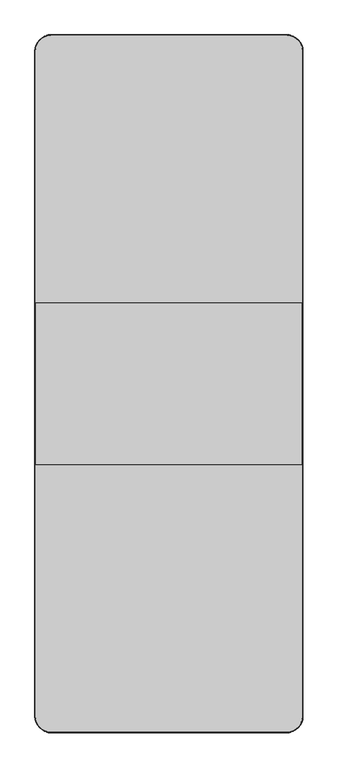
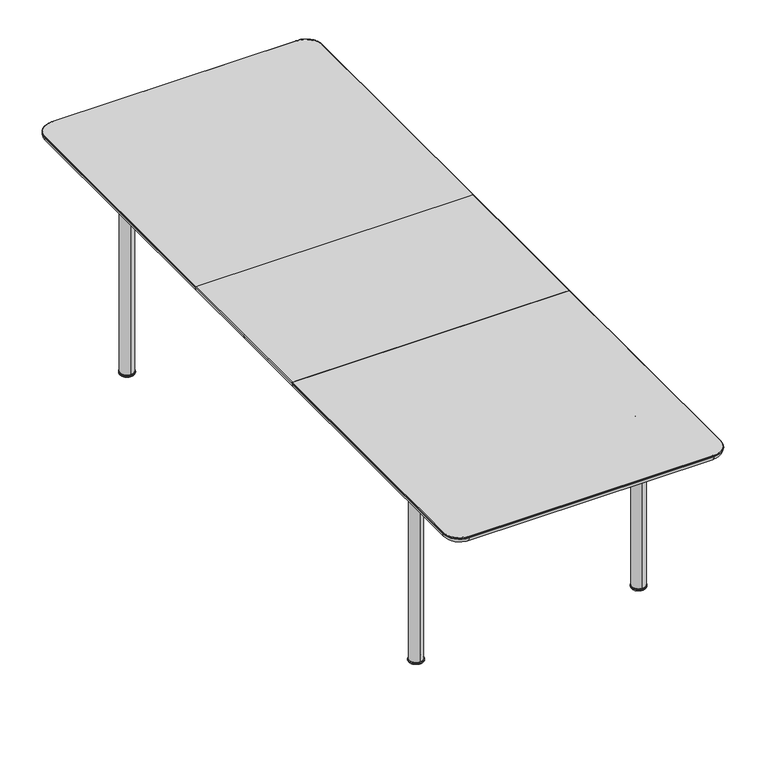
"""IFC4 building model written with IfcOpenShell, lengths in millimetres: furniture geometry, Fredericia - Plan Table Extendable - 6632 : Fredericia - Plan Table Extendable - 6632."""

from ifc_helpers import new_model, si_unit, point, frame, frame_2d, origin, place, context, project, spatial, polyline, circle_curve, ellipse_curve, trimmed, segment, composite_curve, outline, extrude, source, transform, mapped, element, save
from ifc_brep_helpers import plane_surface, cylinder_surface, revolved_surface, advanced_brep


def furniture_cfee76de(model_context):
    return source(origin(), model_context, "Body", "SolidModel", [
        advanced_brep(
        [(500.0, 0.0, 723.0064935), (498.0, 0.0, 725.0064935), (498.0, -300.0, 725.0064935), (500.0, -300.0, 723.0064935), (492.0, 0.0, 705.0064935), (500.0, 0.0, 721.0064935), (500.0, -300.0, 721.0064935), (492.0, -300.0, 705.0064935), (500.0, 300.0, 723.0064935), (498.0, 300.0, 725.0064935), (492.0, 300.0, 705.0064935), (500.0, 300.0, 721.0064935), (-500.0, 0.0, 723.0064935), (-498.0, 0.0, 725.0064935), (-498.0, 300.0, 725.0064935), (-500.0, 300.0, 723.0064935), (-492.0, 0.0, 705.0064935), (-500.0, 0.0, 721.0064935), (-500.0, 300.0, 721.0064935), (-492.0, 300.0, 705.0064935), (-500.0, -300.0, 723.0064935), (-498.0, -300.0, 725.0064935), (-492.0, -300.0, 705.0064935), (-500.0, -300.0, 721.0064935), (482.510771, -300.0, 725.0064935), (482.510771, 300.0, 725.0064935), (-482.510771, 300.0, 725.0064935), (-482.510771, -300.0, 725.0064935), (483.6332472, 300.0, 705.0064935), (483.6332472, -300.0, 705.0064935), (-483.6332472, -300.0, 705.0064935), (-483.6332472, 300.0, 705.0064935)],
        [
            (0, 1, circle_curve(frame((498.0, 0.0, 723.0064935), z_axis=(0.0, -1.0, 0.0), x_axis=(-1.0, 0.0, 0.0)), 2.0)),
            (1, 2),
            (2, 3, circle_curve(frame((498.0, -300.0, 723.0064935), z_axis=(0.0, 1.0, 0.0), x_axis=(-1.0, 0.0, 0.0)), 2.0)),
            (3, 0),
            (4, 5, circle_curve(frame((480.0, 0.0, 721.0064935), z_axis=(0.0, -1.0, 0.0), x_axis=(-1.0, 0.0, 0.0)), 20.0)),
            (5, 6),
            (6, 7, circle_curve(frame((480.0, -300.0, 721.0064935), z_axis=(0.0, 1.0, 0.0), x_axis=(-1.0, 0.0, 0.0)), 20.0)),
            (7, 4),
            (0, 8),
            (8, 9, circle_curve(frame((498.0, 300.0, 723.0064935), z_axis=(0.0, -1.0, 0.0), x_axis=(-1.0, 0.0, 0.0)), 2.0)),
            (9, 1),
            (4, 10),
            (10, 11, circle_curve(frame((480.0, 300.0, 721.0064935), z_axis=(0.0, -1.0, 0.0), x_axis=(-1.0, 0.0, 0.0)), 20.0)),
            (11, 5),
            (12, 13, circle_curve(frame((-498.0, 0.0, 723.0064935), z_axis=(0.0, 1.0, 0.0), x_axis=(1.0, 0.0, 0.0)), 2.0)),
            (13, 14),
            (14, 15, circle_curve(frame((-498.0, 300.0, 723.0064935), z_axis=(0.0, -1.0, 0.0), x_axis=(1.0, 0.0, 0.0)), 2.0)),
            (15, 12),
            (16, 17, circle_curve(frame((-480.0, 0.0, 721.0064935), z_axis=(0.0, 1.0, 0.0), x_axis=(1.0, 0.0, 0.0)), 20.0)),
            (17, 18),
            (18, 19, circle_curve(frame((-480.0, 300.0, 721.0064935), z_axis=(0.0, -1.0, 0.0), x_axis=(1.0, 0.0, 0.0)), 20.0)),
            (19, 16),
            (12, 20),
            (20, 21, circle_curve(frame((-498.0, -300.0, 723.0064935), z_axis=(0.0, 1.0, 0.0), x_axis=(1.0, 0.0, 0.0)), 2.0)),
            (21, 13),
            (16, 22),
            (22, 23, circle_curve(frame((-480.0, -300.0, 721.0064935), z_axis=(0.0, 1.0, 0.0), x_axis=(1.0, 0.0, 0.0)), 20.0)),
            (23, 17),
            (24, 2),
            (9, 25),
            (25, 26),
            (26, 14),
            (21, 27),
            (27, 24),
            (28, 10),
            (7, 29),
            (29, 30),
            (30, 22),
            (19, 31),
            (31, 28),
            (20, 23),
            (6, 3),
            (11, 8),
            (18, 15),
        ],
        [
            cylinder_surface(frame((498.0, -1240.0, 723.0064935), z_axis=(0.0, 1.0, 0.0), x_axis=(-1.0, 0.0, 0.0)), 2.0),
            cylinder_surface(frame((480.0, -1240.0, 721.0064935), z_axis=(0.0, 1.0, 0.0), x_axis=(-1.0, 0.0, 0.0)), 20.0),
            cylinder_surface(frame((498.0, 0.0, 723.0064935), z_axis=(0.0, 1.0, 0.0), x_axis=(-1.0, 0.0, 0.0)), 2.0),
            cylinder_surface(frame((480.0, 0.0, 721.0064935), z_axis=(0.0, 1.0, 0.0), x_axis=(-1.0, 0.0, 0.0)), 20.0),
            cylinder_surface(frame((-498.0, 1240.0, 723.0064935), z_axis=(0.0, -1.0, 0.0), x_axis=(1.0, 0.0, 0.0)), 2.0),
            cylinder_surface(frame((-480.0, 1240.0, 721.0064935), z_axis=(0.0, -1.0, 0.0), x_axis=(1.0, 0.0, 0.0)), 20.0),
            cylinder_surface(frame((-498.0, 0.0, 723.0064935), z_axis=(0.0, -1.0, 0.0), x_axis=(1.0, 0.0, 0.0)), 2.0),
            cylinder_surface(frame((-480.0, 0.0, 721.0064935), z_axis=(0.0, -1.0, 0.0), x_axis=(1.0, 0.0, 0.0)), 20.0),
            plane_surface(frame((500.0, -300.0, 725.0064935), z_axis=(0.0, 0.0, 1.0), x_axis=(1.0, 0.0, 0.0))),
            plane_surface(frame((500.0, -300.0, 705.0064935), z_axis=(0.0, 0.0, -1.0), x_axis=(-1.0, 0.0, 0.0))),
            plane_surface(frame((-500.0, -300.0, 725.0064935), z_axis=(0.0, -1.0, 0.0), x_axis=(0.0, 0.0, -1.0))),
            plane_surface(frame((500.0, -300.0, 725.0064935), z_axis=(1.0, 0.0, 0.0), x_axis=(0.0, 0.0, -1.0))),
            plane_surface(frame((500.0, 300.0, 725.0064935), z_axis=(0.0, 1.0, 0.0), x_axis=(0.0, 0.0, -1.0))),
            plane_surface(frame((-500.0, 300.0, 725.0064935), z_axis=(-1.0, 0.0, 0.0), x_axis=(0.0, 0.0, -1.0))),
        ],
        [
            (0, [[1, 2, 3, 4]]),
            (1, [[5, 6, 7, 8]]),
            (2, [[-1, 9, 10, 11]]),
            (3, [[-5, 12, 13, 14]]),
            (4, [[15, 16, 17, 18]]),
            (5, [[19, 20, 21, 22]]),
            (6, [[-15, 23, 24, 25]]),
            (7, [[-19, 26, 27, 28]]),
            (8, [[29, -2, -11, 30, 31, 32, -16, -25, 33, 34]]),
            (9, [[35, -12, -8, 36, 37, 38, -26, -22, 39, 40]]),
            (10, [[-29, -34, -33, -24, 41, -27, -38, -37, -36, -7, 42, -3]]),
            (11, [[-42, -6, -14, 43, -9, -4]]),
            (12, [[-30, -10, -43, -13, -35, -40, -39, -21, 44, -17, -32, -31]]),
            (13, [[-41, -23, -18, -44, -20, -28]]),
        ],
    ),
        advanced_brep(
        [(482.510771, 300.0, 725.0064935), (498.0, 300.0, 725.0064935), (498.0, 1240.0, 725.0064935), (440.0, 1298.0, 725.0064935), (-440.0, 1298.0, 725.0064935), (-498.0, 1240.0, 725.0064935), (-498.0, 300.0, 725.0064935), (-482.510771, 300.0, 725.0064935), (492.0, 300.0, 705.0064935), (483.6332472, 300.0, 705.0064935), (-483.6332472, 300.0, 705.0064935), (-492.0, 300.0, 705.0064935), (-492.0, 1240.0, 705.0064935), (-440.0, 1292.0, 705.0064935), (440.0, 1292.0, 705.0064935), (492.0, 1240.0, 705.0064935), (500.0, 1240.0, 723.0064935), (500.0, 1240.0, 721.0064935), (440.0, 1300.0, 721.0064935), (440.0, 1300.0, 723.0064945), (500.0, 300.0, 723.0064935), (500.0, 300.0, 721.0064935), (-500.0, 300.0, 723.0064935), (-500.0, 300.0, 721.0064935), (-500.0, 1240.0, 723.0064935), (-500.0, 1240.0, 721.0064935), (-440.0, 1300.0, 723.0064935), (-440.0, 1300.0, 721.0064935)],
        [
            (0, 1),
            (1, 2),
            (2, 3, circle_curve(frame((440.0, 1240.0, 725.0064935), z_axis=(0.0, 0.0, 1.0), x_axis=(1.0, 0.0, 0.0)), 58.0)),
            (3, 4),
            (4, 5, circle_curve(frame((-440.0, 1240.0, 725.0064935), z_axis=(0.0, 0.0, 1.0), x_axis=(0.0, 1.0, 0.0)), 58.0)),
            (5, 6),
            (6, 7),
            (7, 0),
            (8, 9),
            (9, 10),
            (10, 11),
            (11, 12),
            (12, 13, circle_curve(frame((-440.0, 1240.0, 705.0064935), z_axis=(0.0, 0.0, -1.0), x_axis=(0.0, 1.0, 0.0)), 52.0)),
            (13, 14),
            (14, 15, circle_curve(frame((440.0, 1240.0, 705.0064935), z_axis=(0.0, 0.0, -1.0), x_axis=(1.0, 0.0, 0.0)), 52.0)),
            (15, 8),
            (16, 17),
            (17, 18, circle_curve(frame((440.0, 1240.0, 721.0064935), z_axis=(0.0, 0.0, 1.0), x_axis=(0.0, -1.0, 0.0)), 60.0)),
            (18, 19),
            (19, 16, circle_curve(frame((440.0, 1240.0, 723.0064935), z_axis=(0.0, 0.0, -1.0), x_axis=(0.0, -1.0, 0.0)), 60.0)),
            (16, 20),
            (20, 21),
            (21, 17),
            (6, 22, circle_curve(frame((-498.0, 300.0, 723.0064935), z_axis=(0.0, -1.0, 0.0), x_axis=(1.0, 0.0, 0.0)), 2.0)),
            (22, 23),
            (23, 11, circle_curve(frame((-480.0, 300.0, 721.0064935), z_axis=(0.0, -1.0, 0.0), x_axis=(1.0, 0.0, 0.0)), 20.0)),
            (8, 21, circle_curve(frame((480.0, 300.0, 721.0064935), z_axis=(0.0, -1.0, 0.0), x_axis=(-1.0, 0.0, 0.0)), 20.0)),
            (20, 1, circle_curve(frame((498.0, 300.0, 723.0064935), z_axis=(0.0, -1.0, 0.0), x_axis=(-1.0, 0.0, 0.0)), 2.0)),
            (22, 24),
            (24, 25),
            (25, 23),
            (24, 26, circle_curve(frame((-440.0, 1240.0, 723.0064935), z_axis=(0.0, 0.0, -1.0), x_axis=(0.0, -1.0, 0.0)), 60.0)),
            (26, 27),
            (27, 25, circle_curve(frame((-440.0, 1240.0, 721.0064935), z_axis=(0.0, 0.0, 1.0), x_axis=(0.0, -1.0, 0.0)), 60.0)),
            (26, 19),
            (18, 27),
            (16, 2, circle_curve(frame((498.0, 1240.0, 723.0064935), z_axis=(0.0, -1.0, 0.0), x_axis=(-1.0, 0.0, 0.0)), 2.0)),
            (15, 17, circle_curve(frame((480.0, 1240.0, 721.0064935), z_axis=(0.0, -1.0, 0.0), x_axis=(-1.0, 0.0, 0.0)), 20.0)),
            (19, 3, circle_curve(frame((440.0, 1298.0, 723.0064935), z_axis=(1.0, 0.0, 0.0), x_axis=(0.0, -1.0, 0.0)), 2.0)),
            (14, 18, circle_curve(frame((440.0, 1280.0, 721.0064935), z_axis=(1.0, 0.0, 0.0), x_axis=(0.0, -1.0, 0.0)), 20.0)),
            (26, 4, circle_curve(frame((-440.0, 1298.0, 723.0064935), z_axis=(1.0, 0.0, 0.0), x_axis=(0.0, -1.0, 0.0)), 2.0)),
            (13, 27, circle_curve(frame((-440.0, 1280.0, 721.0064935), z_axis=(1.0, 0.0, 0.0), x_axis=(0.0, -1.0, 0.0)), 20.0)),
            (24, 5, circle_curve(frame((-498.0, 1240.0, 723.0064935), z_axis=(0.0, 1.0, 0.0), x_axis=(1.0, 0.0, 0.0)), 2.0)),
            (12, 25, circle_curve(frame((-480.0, 1240.0, 721.0064935), z_axis=(0.0, 1.0, 0.0), x_axis=(1.0, 0.0, 0.0)), 20.0)),
        ],
        [
            plane_surface(frame((-440.0, 1300.0, 725.0064935), z_axis=(0.0, 0.0, 1.0), x_axis=(-1.0, 0.0, 0.0))),
            plane_surface(frame((-440.0, 1300.0, 705.0064935), z_axis=(0.0, 0.0, -1.0), x_axis=(1.0, 0.0, 0.0))),
            cylinder_surface(frame((440.0, 1240.0, 705.0064935), z_axis=(0.0, 0.0, 1.0), x_axis=(0.0, -1.0, 0.0)), 60.0),
            plane_surface(frame((500.0, 300.0, 725.0064935), z_axis=(1.0, 0.0, 0.0), x_axis=(0.0, 0.0, -1.0))),
            plane_surface(frame((-500.0, 300.0, 725.0064935), z_axis=(0.0, -1.0, 0.0), x_axis=(0.0, 0.0, -1.0))),
            plane_surface(frame((-500.0, 1240.0, 725.0064935), z_axis=(-1.0, 0.0, 0.0), x_axis=(0.0, 0.0, -1.0))),
            cylinder_surface(frame((-440.0, 1240.0, 705.0064935), z_axis=(0.0, 0.0, 1.0), x_axis=(0.0, -1.0, 0.0)), 60.0),
            plane_surface(frame((440.0, 1300.0, 725.0064935), z_axis=(0.0, 1.0, 0.0), x_axis=(0.0, 0.0, -1.0))),
            cylinder_surface(frame((498.0, 0.0, 723.0064935), z_axis=(0.0, 1.0, 0.0), x_axis=(-1.0, 0.0, 0.0)), 2.0),
            cylinder_surface(frame((480.0, 0.0, 721.0064935), z_axis=(0.0, 1.0, 0.0), x_axis=(-1.0, 0.0, 0.0)), 20.0),
            revolved_surface(trimmed(ellipse_curve(frame((498.0, 1240.0, 723.0064935), z_axis=(0.0, -1.0, 0.0), x_axis=(-1.0, 0.0, 0.0)), 2.0, 2.0), [point((500.0, 1240.0, 723.0064935))], [point((498.0, 1240.0, 725.0064935))], True, "CARTESIAN"), (440.0, 1240.0, 0.0), (0.0, 0.0, 1.0)),
            revolved_surface(trimmed(ellipse_curve(frame((480.0, 1240.0, 721.0064935), z_axis=(0.0, -1.0, 0.0), x_axis=(-1.0, 0.0, 0.0)), 20.0, 20.0), [point((492.0, 1240.0, 705.0064935))], [point((500.0, 1240.0, 721.0064935))], True, "CARTESIAN"), (440.0, 1240.0, 0.0), (0.0, 0.0, 1.0)),
            cylinder_surface(frame((440.0, 1298.0, 723.0064935), z_axis=(-1.0, 0.0, 0.0), x_axis=(0.0, -1.0, 0.0)), 2.0),
            cylinder_surface(frame((440.0, 1280.0, 721.0064935), z_axis=(-1.0, 0.0, 0.0), x_axis=(0.0, -1.0, 0.0)), 20.0),
            revolved_surface(trimmed(ellipse_curve(frame((-440.0, 1298.0, 723.0064935), z_axis=(1.0, 0.0, 0.0), x_axis=(0.0, -1.0, 0.0)), 2.0, 2.0), [point((-440.0, 1300.0, 723.0064935))], [point((-440.0, 1298.0, 725.0064935))], True, "CARTESIAN"), (-440.0, 1240.0, 0.0), (0.0, 0.0, 1.0)),
            revolved_surface(trimmed(ellipse_curve(frame((-440.0, 1280.0, 721.0064935), z_axis=(1.0, 0.0, 0.0), x_axis=(0.0, -1.0, 0.0)), 20.0, 20.0), [point((-440.0, 1292.0, 705.0064935))], [point((-440.0, 1300.0, 721.0064935))], True, "CARTESIAN"), (-440.0, 1240.0, 0.0), (0.0, 0.0, 1.0)),
            cylinder_surface(frame((-498.0, 1240.0, 723.0064935), z_axis=(0.0, -1.0, 0.0), x_axis=(1.0, 0.0, 0.0)), 2.0),
            cylinder_surface(frame((-480.0, 1240.0, 721.0064935), z_axis=(0.0, -1.0, 0.0), x_axis=(1.0, 0.0, 0.0)), 20.0),
        ],
        [
            (0, [[1, 2, 3, 4, 5, 6, 7, 8]]),
            (1, [[9, 10, 11, 12, 13, 14, 15, 16]]),
            (2, [[17, 18, 19, 20]]),
            (3, [[-17, 21, 22, 23]]),
            (4, [[-1, -8, -7, 24, 25, 26, -11, -10, -9, 27, -22, 28]]),
            (5, [[-25, 29, 30, 31]]),
            (6, [[-30, 32, 33, 34]]),
            (7, [[-33, 35, -19, 36]]),
            (8, [[37, -2, -28, -21]]),
            (9, [[38, -23, -27, -16]]),
            (10, [[-37, -20, 39, -3]]),
            (11, [[-38, -15, 40, -18]]),
            (12, [[-39, -35, 41, -4]]),
            (13, [[-40, -14, 42, -36]]),
            (14, [[-41, -32, 43, -5]]),
            (15, [[-42, -13, 44, -34]]),
            (16, [[-43, -29, -24, -6]]),
            (17, [[-44, -12, -26, -31]]),
        ],
    ),
        advanced_brep(
        [(498.0, -300.0, 725.0064935), (482.510771, -300.0, 725.0064935), (-482.510771, -300.0, 725.0064935), (-498.0, -300.0, 725.0064935), (-498.0, -1240.0, 725.0064935), (-440.0, -1298.0, 725.0064935), (440.0, -1298.0, 725.0064935), (498.0, -1240.0, 725.0064935), (483.6332472, -300.0, 705.0064935), (492.0, -300.0, 705.0064935), (492.0, -1240.0, 705.0064935), (440.0, -1292.0, 705.0064935), (-440.0, -1292.0, 705.0064935), (-492.0, -1240.0, 705.0064935), (-492.0, -300.0, 705.0064935), (-483.6332472, -300.0, 705.0064935), (440.0, -1300.0, 723.0064935), (440.0, -1300.0, 721.0064935), (500.0, -1240.0, 721.0064935), (500.0, -1240.0, 723.0064954), (500.0, -300.0, 721.0064935), (500.0, -300.0, 723.0064935), (-500.0, -300.0, 721.0064935), (-500.0, -300.0, 723.0064935), (-500.0, -1240.0, 721.0064935), (-500.0, -1240.0, 723.0064942), (-440.0, -1300.0, 721.0064935), (-440.0, -1300.0, 723.0064949)],
        [
            (0, 1),
            (1, 2),
            (2, 3),
            (3, 4),
            (4, 5, circle_curve(frame((-440.0, -1240.0, 725.0064935), z_axis=(0.0, 0.0, 1.0), x_axis=(-1.0, 0.0, 0.0)), 58.0)),
            (5, 6),
            (6, 7, circle_curve(frame((440.0, -1240.0, 725.0064935), z_axis=(0.0, 0.0, 1.0), x_axis=(0.0, -1.0, 0.0)), 58.0)),
            (7, 0),
            (8, 9),
            (9, 10),
            (10, 11, circle_curve(frame((440.0, -1240.0, 705.0064935), z_axis=(0.0, 0.0, -1.0), x_axis=(0.0, -1.0, 0.0)), 52.0)),
            (11, 12),
            (12, 13, circle_curve(frame((-440.0, -1240.0, 705.0064935), z_axis=(0.0, 0.0, -1.0), x_axis=(-1.0, 0.0, 0.0)), 52.0)),
            (13, 14),
            (14, 15),
            (15, 8),
            (16, 17),
            (17, 18, circle_curve(frame((440.0, -1240.0, 721.0064935), z_axis=(0.0, 0.0, 1.0), x_axis=(0.0, 1.0, 0.0)), 60.0)),
            (18, 19),
            (19, 16, circle_curve(frame((440.0, -1240.0, 723.0064935), z_axis=(0.0, 0.0, -1.0), x_axis=(0.0, 1.0, 0.0)), 60.0)),
            (18, 20),
            (20, 21),
            (21, 19),
            (0, 21, circle_curve(frame((498.0, -300.0, 723.0064935), z_axis=(0.0, 1.0, 0.0), x_axis=(-1.0, 0.0, 0.0)), 2.0)),
            (20, 9, circle_curve(frame((480.0, -300.0, 721.0064935), z_axis=(0.0, 1.0, 0.0), x_axis=(-1.0, 0.0, 0.0)), 20.0)),
            (14, 22, circle_curve(frame((-480.0, -300.0, 721.0064935), z_axis=(0.0, 1.0, 0.0), x_axis=(1.0, 0.0, 0.0)), 20.0)),
            (22, 23),
            (23, 3, circle_curve(frame((-498.0, -300.0, 723.0064935), z_axis=(0.0, 1.0, 0.0), x_axis=(1.0, 0.0, 0.0)), 2.0)),
            (22, 24),
            (24, 25),
            (25, 23),
            (24, 26, circle_curve(frame((-440.0, -1240.0, 721.0064935), z_axis=(0.0, 0.0, 1.0), x_axis=(0.0, 1.0, 0.0)), 60.0)),
            (26, 27),
            (27, 25, circle_curve(frame((-440.0, -1240.0, 723.0064935), z_axis=(0.0, 0.0, -1.0), x_axis=(0.0, 1.0, 0.0)), 60.0)),
            (16, 27),
            (26, 17),
            (27, 5, circle_curve(frame((-440.0, -1298.0, 723.0064935), z_axis=(-1.0, 0.0, 0.0), x_axis=(0.0, 1.0, 0.0)), 2.0)),
            (4, 25, circle_curve(frame((-498.0, -1240.0, 723.0064935), z_axis=(0.0, -1.0, 0.0), x_axis=(1.0, 0.0, 0.0)), 2.0)),
            (12, 26, circle_curve(frame((-440.0, -1280.0, 721.0064935), z_axis=(-1.0, 0.0, 0.0), x_axis=(0.0, 1.0, 0.0)), 20.0)),
            (24, 13, circle_curve(frame((-480.0, -1240.0, 721.0064935), z_axis=(0.0, -1.0, 0.0), x_axis=(1.0, 0.0, 0.0)), 20.0)),
            (16, 6, circle_curve(frame((440.0, -1298.0, 723.0064935), z_axis=(-1.0, 0.0, 0.0), x_axis=(0.0, 1.0, 0.0)), 2.0)),
            (11, 17, circle_curve(frame((440.0, -1280.0, 721.0064935), z_axis=(-1.0, 0.0, 0.0), x_axis=(0.0, 1.0, 0.0)), 20.0)),
            (19, 7, circle_curve(frame((498.0, -1240.0, 723.0064935), z_axis=(0.0, -1.0, 0.0), x_axis=(-1.0, 0.0, 0.0)), 2.0)),
            (10, 18, circle_curve(frame((480.0, -1240.0, 721.0064935), z_axis=(0.0, -1.0, 0.0), x_axis=(-1.0, 0.0, 0.0)), 20.0)),
        ],
        [
            plane_surface(frame((440.0, -1180.0, 725.0064935), z_axis=(0.0, 0.0, 1.0), x_axis=(-1.0, 0.0, 0.0))),
            plane_surface(frame((440.0, -1180.0, 705.0064935), z_axis=(0.0, 0.0, -1.0), x_axis=(1.0, 0.0, 0.0))),
            cylinder_surface(frame((440.0, -1240.0, 705.0064935), z_axis=(0.0, 0.0, 1.0), x_axis=(0.0, 1.0, 0.0)), 60.0),
            plane_surface(frame((500.0, -1240.0, 725.0064935), z_axis=(1.0, 0.0, 0.0), x_axis=(0.0, 0.0, -1.0))),
            plane_surface(frame((500.0, -300.0, 725.0064935), z_axis=(0.0, 1.0, 0.0), x_axis=(0.0, 0.0, -1.0))),
            plane_surface(frame((-500.0, -300.0, 725.0064935), z_axis=(-1.0, 0.0, 0.0), x_axis=(0.0, 0.0, -1.0))),
            cylinder_surface(frame((-440.0, -1240.0, 705.0064935), z_axis=(0.0, 0.0, 1.0), x_axis=(0.0, 1.0, 0.0)), 60.0),
            plane_surface(frame((-440.0, -1300.0, 725.0064935), z_axis=(0.0, -1.0, 0.0), x_axis=(0.0, 0.0, -1.0))),
            revolved_surface(trimmed(ellipse_curve(frame((-498.0, -1240.0, 723.0064935), z_axis=(0.0, 1.0, 0.0), x_axis=(1.0, 0.0, 0.0)), 2.0, 2.0), [point((-500.0, -1240.0, 723.0064935))], [point((-498.0, -1240.0, 725.0064935))], True, "CARTESIAN"), (-440.0, -1240.0, 0.0), (0.0, 0.0, 1.0)),
            revolved_surface(trimmed(ellipse_curve(frame((-480.0, -1240.0, 721.0064935), z_axis=(0.0, 1.0, 0.0), x_axis=(1.0, 0.0, 0.0)), 20.0, 20.0), [point((-492.0, -1240.0, 705.0064935))], [point((-500.0, -1240.0, 721.0064935))], True, "CARTESIAN"), (-440.0, -1240.0, 0.0), (0.0, 0.0, 1.0)),
            cylinder_surface(frame((-440.0, -1298.0, 723.0064935), z_axis=(1.0, 0.0, 0.0), x_axis=(0.0, 1.0, 0.0)), 2.0),
            cylinder_surface(frame((-440.0, -1280.0, 721.0064935), z_axis=(1.0, 0.0, 0.0), x_axis=(0.0, 1.0, 0.0)), 20.0),
            revolved_surface(trimmed(ellipse_curve(frame((440.0, -1298.0, 723.0064935), z_axis=(-1.0, 0.0, 0.0), x_axis=(0.0, 1.0, 0.0)), 2.0, 2.0), [point((440.0, -1300.0, 723.0064935))], [point((440.0, -1298.0, 725.0064935))], True, "CARTESIAN"), (440.0, -1240.0, 0.0), (0.0, 0.0, 1.0)),
            revolved_surface(trimmed(ellipse_curve(frame((440.0, -1280.0, 721.0064935), z_axis=(-1.0, 0.0, 0.0), x_axis=(0.0, 1.0, 0.0)), 20.0, 20.0), [point((440.0, -1292.0, 705.0064935))], [point((440.0, -1300.0, 721.0064935))], True, "CARTESIAN"), (440.0, -1240.0, 0.0), (0.0, 0.0, 1.0)),
            cylinder_surface(frame((498.0, -1240.0, 723.0064935), z_axis=(0.0, 1.0, 0.0), x_axis=(-1.0, 0.0, 0.0)), 2.0),
            cylinder_surface(frame((480.0, -1240.0, 721.0064935), z_axis=(0.0, 1.0, 0.0), x_axis=(-1.0, 0.0, 0.0)), 20.0),
            cylinder_surface(frame((-498.0, 0.0, 723.0064935), z_axis=(0.0, -1.0, 0.0), x_axis=(1.0, 0.0, 0.0)), 2.0),
            cylinder_surface(frame((-480.0, 0.0, 721.0064935), z_axis=(0.0, -1.0, 0.0), x_axis=(1.0, 0.0, 0.0)), 20.0),
        ],
        [
            (0, [[1, 2, 3, 4, 5, 6, 7, 8]]),
            (1, [[9, 10, 11, 12, 13, 14, 15, 16]]),
            (2, [[17, 18, 19, 20]]),
            (3, [[-19, 21, 22, 23]]),
            (4, [[-1, 24, -22, 25, -9, -16, -15, 26, 27, 28, -3, -2]]),
            (5, [[-27, 29, 30, 31]]),
            (6, [[-30, 32, 33, 34]]),
            (7, [[-17, 35, -33, 36]]),
            (8, [[37, -5, 38, -34]]),
            (9, [[39, -32, 40, -13]]),
            (10, [[-37, -35, 41, -6]]),
            (11, [[-39, -12, 42, -36]]),
            (12, [[-41, -20, 43, -7]]),
            (13, [[-42, -11, 44, -18]]),
            (14, [[-43, -23, -24, -8]]),
            (15, [[-44, -10, -25, -21]]),
            (16, [[-38, -4, -28, -31]]),
            (17, [[-40, -29, -26, -14]]),
        ],
    ),
        extrude(outline(polyline([(642.0064935, -316.0219396), (642.0064935, 316.6229651), (667.8036245, 387.5), (683.766291, 387.5), (657.0064935, 313.9780604), (657.0064935, -313.3770349), (683.9850464, -387.5), (668.0223798, -387.5), (642.0064935, -316.0219396)])), frame((0.0, 242.5, 0.0), z_axis=(0.0, 1.0, 0.0), x_axis=(0.0, 0.0, 1.0)), (0.0, 0.0, 1.0), 15.0),
        extrude(outline(polyline([(642.0064935, -316.0219396), (642.0064935, 316.6229651), (667.8036245, 387.5), (683.766291, 387.5), (657.0064935, 313.9780604), (657.0064935, -313.3770349), (683.9850464, -387.5), (668.0223798, -387.5), (642.0064935, -316.0219396)])), frame((0.0, -7.5, 0.0), z_axis=(0.0, 1.0, 0.0), x_axis=(0.0, 0.0, 1.0)), (0.0, 0.0, 1.0), 15.0),
        extrude(outline(polyline([(642.0064935, -316.0219396), (642.0064935, 316.6229651), (667.8036245, 387.5), (683.766291, 387.5), (657.0064935, 313.9780604), (657.0064935, -313.3770349), (683.9850464, -387.5), (668.0223798, -387.5), (642.0064935, -316.0219396)])), frame((0.0, -257.5, 0.0), z_axis=(0.0, 1.0, 0.0), x_axis=(0.0, 0.0, 1.0)), (0.0, 0.0, 1.0), 15.0),
        extrude(outline(composite_curve([segment(trimmed(circle_curve(frame_2d((688.5689935, -340.0)), 12.5), [point((688.5689935, -352.5))], [point((688.5689935, -327.5))], False, "CARTESIAN"), True, "CONTINUOUS"), segment(trimmed(circle_curve(frame_2d((688.5689935, -340.0)), 12.5), [point((688.5689935, -327.5))], [point((688.5689935, -352.5))], False, "CARTESIAN"), True, "CONTINUOUS")], self_intersect=False)), frame((0.0, -887.5, 0.0), z_axis=(0.0, 1.0, 0.0), x_axis=(0.0, 0.0, 1.0)), (0.0, 0.0, 1.0), 1775.8862765),
        advanced_brep(
        [(-387.5, -887.5, 689.5199779), (-412.5, -887.5, 689.5199779), (-412.5, -887.5, 664.4807411), (-387.5, -887.5, 664.4807411), (-387.5, 0.0, 689.5199779), (-412.5, 0.0, 689.5199779), (-412.5, 887.5, 689.5199779), (-412.5, 887.5, 664.4807411), (-412.5, 0.0, 664.4807411), (-387.5, 0.0, 664.4807411), (-387.5, 887.5, 664.4807411), (-387.5, 887.5, 689.5199779)],
        [
            (0, 1, circle_curve(frame((-400.0, -887.5, 689.5199779), z_axis=(0.0, -1.0, 0.0), x_axis=(-1.0, 0.0, 0.0)), 12.5)),
            (1, 2),
            (2, 3, circle_curve(frame((-400.0, -887.5, 664.4807411), z_axis=(0.0, -1.0, 0.0), x_axis=(-1.0, 0.0, 0.0)), 12.5)),
            (3, 0),
            (0, 4),
            (4, 5, circle_curve(frame((-400.0, 0.0, 689.5199779), z_axis=(0.0, -1.0, 0.0), x_axis=(-1.0, 0.0, 0.0)), 12.5)),
            (5, 1),
            (5, 6),
            (6, 7),
            (7, 8),
            (8, 2),
            (8, 9, circle_curve(frame((-400.0, 0.0, 664.4807411), z_axis=(0.0, -1.0, 0.0), x_axis=(-1.0, 0.0, 0.0)), 12.5)),
            (9, 3),
            (9, 10),
            (10, 11),
            (11, 4),
            (10, 7, circle_curve(frame((-400.0, 887.5, 664.4807411), z_axis=(0.0, 1.0, 0.0), x_axis=(-1.0, 0.0, 0.0)), 12.5)),
            (6, 11, circle_curve(frame((-400.0, 887.5, 689.5199779), z_axis=(0.0, 1.0, 0.0), x_axis=(-1.0, 0.0, 0.0)), 12.5)),
        ],
        [
            plane_surface(frame((-412.5, -887.5, 689.5199779), z_axis=(0.0, -1.0, 0.0), x_axis=(0.0, 0.0, -1.0))),
            cylinder_surface(frame((-400.0, 0.0, 689.5199779), z_axis=(0.0, -1.0, 0.0), x_axis=(-1.0, 0.0, 0.0)), 12.5),
            plane_surface(frame((-412.5, -887.5, 689.5199779), z_axis=(-1.0, 0.0, 0.0), x_axis=(0.0, 1.0, 0.0))),
            cylinder_surface(frame((-400.0, 0.0, 664.4807411), z_axis=(0.0, -1.0, 0.0), x_axis=(-1.0, 0.0, 0.0)), 12.5),
            plane_surface(frame((-387.5, -887.5, 664.4807411), z_axis=(1.0, 0.0, 0.0), x_axis=(0.0, 1.0, 0.0))),
            plane_surface(frame((-387.5, 887.5, 664.506188), z_axis=(0.0, 1.0, 0.0), x_axis=(0.0, 0.0, -1.0))),
            cylinder_surface(frame((-400.0, 0.0, 689.5199779), z_axis=(0.0, 1.0, 0.0), x_axis=(-1.0, 0.0, 0.0)), 12.5),
            cylinder_surface(frame((-400.0, 0.0, 664.4807411), z_axis=(0.0, 1.0, 0.0), x_axis=(-1.0, 0.0, 0.0)), 12.5),
        ],
        [
            (0, [[1, 2, 3, 4]]),
            (1, [[-1, 5, 6, 7]]),
            (2, [[-2, -7, 8, 9, 10, 11]]),
            (3, [[-3, -11, 12, 13]]),
            (4, [[-4, -13, 14, 15, 16, -5]]),
            (5, [[-15, 17, -9, 18]]),
            (6, [[-18, -8, -6, -16]]),
            (7, [[-17, -14, -12, -10]]),
        ],
    ),
        advanced_brep(
        [(387.5, -887.5, 689.5199779), (387.5, -887.5, 664.4807411), (412.5, -887.5, 664.4807411), (412.5, -887.5, 689.5199779), (412.5, 0.0, 689.5199779), (387.5, 0.0, 689.5199779), (412.5, 0.0, 664.4807411), (412.5, 887.5, 664.4807411), (412.5, 887.5, 689.5199779), (387.5, 0.0, 664.4807411), (387.5, 887.5, 689.5199779), (387.5, 887.5, 664.4807411)],
        [
            (0, 1),
            (1, 2, circle_curve(frame((400.0, -887.5, 664.4807411), z_axis=(0.0, -1.0, 0.0), x_axis=(1.0, 0.0, 0.0)), 12.5)),
            (2, 3),
            (3, 0, circle_curve(frame((400.0, -887.5, 689.5199779), z_axis=(0.0, -1.0, 0.0), x_axis=(1.0, 0.0, 0.0)), 12.5)),
            (3, 4),
            (4, 5, circle_curve(frame((400.0, 0.0, 689.5199779), z_axis=(0.0, -1.0, 0.0), x_axis=(1.0, 0.0, 0.0)), 12.5)),
            (5, 0),
            (2, 6),
            (6, 7),
            (7, 8),
            (8, 4),
            (1, 9),
            (9, 6, circle_curve(frame((400.0, 0.0, 664.4807411), z_axis=(0.0, -1.0, 0.0), x_axis=(1.0, 0.0, 0.0)), 12.5)),
            (5, 10),
            (10, 11),
            (11, 9),
            (10, 8, circle_curve(frame((400.0, 887.5, 689.5199779), z_axis=(0.0, 1.0, 0.0), x_axis=(1.0, 0.0, 0.0)), 12.5)),
            (7, 11, circle_curve(frame((400.0, 887.5, 664.4807411), z_axis=(0.0, 1.0, 0.0), x_axis=(1.0, 0.0, 0.0)), 12.5)),
        ],
        [
            plane_surface(frame((387.5, -887.5, 664.506188), z_axis=(0.0, -1.0, 0.0), x_axis=(0.0, 0.0, -1.0))),
            cylinder_surface(frame((400.0, 0.0, 689.5199779), z_axis=(0.0, -1.0, 0.0), x_axis=(1.0, 0.0, 0.0)), 12.5),
            plane_surface(frame((412.5, -887.5, 664.4807411), z_axis=(1.0, 0.0, 0.0), x_axis=(0.0, 1.0, 0.0))),
            cylinder_surface(frame((400.0, 0.0, 664.4807411), z_axis=(0.0, -1.0, 0.0), x_axis=(1.0, 0.0, 0.0)), 12.5),
            plane_surface(frame((387.5, -887.5, 689.5199779), z_axis=(-1.0, 0.0, 0.0), x_axis=(0.0, 1.0, 0.0))),
            plane_surface(frame((412.5, 887.5, 689.5199779), z_axis=(0.0, 1.0, 0.0), x_axis=(0.0, 0.0, -1.0))),
            cylinder_surface(frame((400.0, 0.0, 689.5199779), z_axis=(0.0, 1.0, 0.0), x_axis=(1.0, 0.0, 0.0)), 12.5),
            cylinder_surface(frame((400.0, 0.0, 664.4807411), z_axis=(0.0, 1.0, 0.0), x_axis=(1.0, 0.0, 0.0)), 12.5),
        ],
        [
            (0, [[1, 2, 3, 4]]),
            (1, [[-4, 5, 6, 7]]),
            (2, [[-3, 8, 9, 10, 11, -5]]),
            (3, [[-2, 12, 13, -8]]),
            (4, [[-1, -7, 14, 15, 16, -12]]),
            (5, [[17, -10, 18, -15]]),
            (6, [[-17, -14, -6, -11]]),
            (7, [[-18, -9, -13, -16]]),
        ],
    ),
        extrude(outline(composite_curve([segment(trimmed(circle_curve(frame_2d((900.0, 689.5199779)), 12.5), [point((887.5, 689.5199779))], [point((912.5, 689.5199779))], False, "CARTESIAN"), True, "CONTINUOUS"), segment(polyline([(912.5, 689.5199779), (912.5, 664.4807411)]), True, "CONTINUOUS"), segment(trimmed(circle_curve(frame_2d((900.0, 664.4807411)), 12.5), [point((912.5, 664.4807411))], [point((887.5, 664.4807411))], False, "CARTESIAN"), True, "CONTINUOUS"), segment(polyline([(887.5, 664.4807411), (887.5, 689.5199779)]), True, "CONTINUOUS")], self_intersect=False)), frame((-387.5, 0.0, 0.0), z_axis=(1.0, 0.0, 0.0), x_axis=(0.0, 1.0, 0.0)), (0.0, 0.0, 1.0), 775.0),
        advanced_brep(
        [(-400.0, 899.9751431, 7.0064935), (-400.0, 876.0499492, 7.0064935), (-400.0, 923.9003371, 7.0064935), (-400.0, 923.4003371, 0.0), (-400.0, 876.5499492, 0.0), (-400.0, 899.9751431, 0.0), (-400.0, 926.4003371, 3.0), (-400.0, 873.5499492, 3.0), (-400.0, 926.4003371, 4.5064935), (-400.0, 873.5499492, 4.5064935)],
        [
            (0, 1),
            (1, 2, circle_curve(frame((-400.0, 899.9751431, 7.0064935), z_axis=(0.0, 0.0, 1.0), x_axis=(0.0, -1.0, 0.0)), 23.925194)),
            (2, 0),
            (2, 1, circle_curve(frame((-400.0, 899.9751431, 7.0064935), z_axis=(0.0, 0.0, 1.0), x_axis=(0.0, -1.0, 0.0)), 23.925194)),
            (3, 4, circle_curve(frame((-400.0, 899.9751431, 0.0), z_axis=(0.0, 0.0, -1.0), x_axis=(0.0, -1.0, 0.0)), 23.425194)),
            (4, 5),
            (5, 3),
            (4, 3, circle_curve(frame((-400.0, 899.9751431, 0.0), z_axis=(0.0, 0.0, -1.0), x_axis=(0.0, -1.0, 0.0)), 23.425194)),
            (6, 7, circle_curve(frame((-400.0, 899.9751431, 3.0), z_axis=(0.0, 0.0, -1.0), x_axis=(0.0, -1.0, 0.0)), 26.425194)),
            (7, 4, circle_curve(frame((-400.0, 876.5499492, 3.0), z_axis=(1.0, 0.0, 0.0), x_axis=(0.0, -1.0, 0.0)), 3.0)),
            (3, 6, circle_curve(frame((-400.0, 923.4003371, 3.0), z_axis=(1.0, 0.0, 0.0), x_axis=(0.0, 1.0, 0.0)), 3.0)),
            (7, 6, circle_curve(frame((-400.0, 899.9751431, 3.0), z_axis=(0.0, 0.0, -1.0), x_axis=(0.0, -1.0, 0.0)), 26.425194)),
            (8, 9, circle_curve(frame((-400.0, 899.9751431, 4.5064935), z_axis=(0.0, 0.0, -1.0), x_axis=(0.0, -1.0, 0.0)), 26.425194)),
            (9, 7),
            (6, 8),
            (9, 8, circle_curve(frame((-400.0, 899.9751431, 4.5064935), z_axis=(0.0, 0.0, -1.0), x_axis=(0.0, -1.0, 0.0)), 26.425194)),
            (1, 9, circle_curve(frame((-400.0, 876.0499492, 4.5064935), z_axis=(1.0, 0.0, 0.0), x_axis=(0.0, -1.0, 0.0)), 2.5)),
            (8, 2, circle_curve(frame((-400.0, 923.9003371, 4.5064935), z_axis=(1.0, 0.0, 0.0), x_axis=(0.0, 1.0, 0.0)), 2.5)),
        ],
        [
            plane_surface(frame((-400.0, 899.9751431, 7.0064935), z_axis=(0.0, 0.0, 1.0), x_axis=(0.0, -1.0, 0.0))),
            plane_surface(frame((-400.0, 899.9751431, 0.0), z_axis=(0.0, 0.0, -1.0), x_axis=(0.0, -1.0, 0.0))),
            revolved_surface(trimmed(ellipse_curve(frame((-400.0, 876.5499492, 3.0), z_axis=(-1.0, 0.0, 0.0), x_axis=(0.0, -1.0, 0.0)), 3.0, 3.0), [point((-400.0, 876.5499492, 0.0))], [point((-400.0, 873.5499492, 3.0))], True, "CARTESIAN"), (-400.0, 899.9751431, 7.0064935), (0.0, 0.0, 1.0)),
            cylinder_surface(frame((-400.0, 899.9751431, 7.0064935), z_axis=(0.0, 0.0, 1.0), x_axis=(0.0, -1.0, 0.0)), 26.425194),
            revolved_surface(trimmed(ellipse_curve(frame((-400.0, 876.0499492, 4.5064935), z_axis=(-1.0, 0.0, 0.0), x_axis=(0.0, -1.0, 0.0)), 2.5, 2.5), [point((-400.0, 873.5499492, 4.5064935))], [point((-400.0, 876.0499492, 7.0064935))], True, "CARTESIAN"), (-400.0, 899.9751431, 7.0064935), (0.0, 0.0, 1.0)),
        ],
        [
            (0, [[1, 2, 3]]),
            (0, [[-3, 4, -1]]),
            (1, [[5, 6, 7]]),
            (1, [[8, -7, -6]]),
            (2, [[9, 10, -5, 11]]),
            (2, [[12, -11, -8, -10]]),
            (3, [[13, 14, -9, 15]]),
            (3, [[16, -15, -12, -14]]),
            (4, [[-2, 17, -13, 18]]),
            (4, [[-4, -18, -16, -17]]),
        ],
    ),
        extrude(outline(composite_curve([segment(trimmed(circle_curve(frame_2d((-400.0034069, 899.9751431)), 24.0), [point((-400.0034069, 923.9751431))], [point((-400.0034069, 875.9751431))], False, "CARTESIAN"), True, "CONTINUOUS"), segment(trimmed(circle_curve(frame_2d((-400.0034069, 899.9751431)), 24.0), [point((-400.0034069, 875.9751431))], [point((-400.0034069, 923.9751431))], False, "CARTESIAN"), True, "CONTINUOUS")], self_intersect=False)), frame((0.0, 0.0, 7.0064935), z_axis=(0.0, 0.0, 1.0), x_axis=(1.0, 0.0, 0.0)), (0.0, 0.0, 1.0), 695.0),
        advanced_brep(
        [(400.0, 923.9003371, 7.0064935), (400.0, 876.0499492, 7.0064935), (400.0, 899.9751431, 7.0064935), (400.0, 899.9751431, 0.0), (400.0, 876.5499492, 0.0), (400.0, 923.4003371, 0.0), (400.0, 873.5499492, 3.0), (400.0, 926.4003371, 3.0), (400.0, 873.5499492, 4.5064935), (400.0, 926.4003371, 4.5064935)],
        [
            (0, 1, circle_curve(frame((400.0, 899.9751431, 7.0064935), z_axis=(0.0, 0.0, 1.0), x_axis=(0.0, -1.0, 0.0)), 23.925194)),
            (1, 2),
            (2, 0),
            (1, 0, circle_curve(frame((400.0, 899.9751431, 7.0064935), z_axis=(0.0, 0.0, 1.0), x_axis=(0.0, -1.0, 0.0)), 23.925194)),
            (3, 4),
            (4, 5, circle_curve(frame((400.0, 899.9751431, 0.0), z_axis=(0.0, 0.0, -1.0), x_axis=(0.0, -1.0, 0.0)), 23.425194)),
            (5, 3),
            (5, 4, circle_curve(frame((400.0, 899.9751431, 0.0), z_axis=(0.0, 0.0, -1.0), x_axis=(0.0, -1.0, 0.0)), 23.425194)),
            (4, 6, circle_curve(frame((400.0, 876.5499492, 3.0), z_axis=(-1.0, 0.0, 0.0), x_axis=(0.0, -1.0, 0.0)), 3.0)),
            (6, 7, circle_curve(frame((400.0, 899.9751431, 3.0), z_axis=(0.0, 0.0, -1.0), x_axis=(0.0, -1.0, 0.0)), 26.425194)),
            (7, 5, circle_curve(frame((400.0, 923.4003371, 3.0), z_axis=(-1.0, 0.0, 0.0), x_axis=(0.0, 1.0, 0.0)), 3.0)),
            (7, 6, circle_curve(frame((400.0, 899.9751431, 3.0), z_axis=(0.0, 0.0, -1.0), x_axis=(0.0, -1.0, 0.0)), 26.425194)),
            (6, 8),
            (8, 9, circle_curve(frame((400.0, 899.9751431, 4.5064935), z_axis=(0.0, 0.0, -1.0), x_axis=(0.0, -1.0, 0.0)), 26.425194)),
            (9, 7),
            (9, 8, circle_curve(frame((400.0, 899.9751431, 4.5064935), z_axis=(0.0, 0.0, -1.0), x_axis=(0.0, -1.0, 0.0)), 26.425194)),
            (8, 1, circle_curve(frame((400.0, 876.0499492, 4.5064935), z_axis=(-1.0, 0.0, 0.0), x_axis=(0.0, -1.0, 0.0)), 2.5)),
            (0, 9, circle_curve(frame((400.0, 923.9003371, 4.5064935), z_axis=(-1.0, 0.0, 0.0), x_axis=(0.0, 1.0, 0.0)), 2.5)),
        ],
        [
            plane_surface(frame((400.0, 899.9751431, 7.0064935), z_axis=(0.0, 0.0, 1.0), x_axis=(0.0, -1.0, 0.0))),
            plane_surface(frame((400.0, 899.9751431, 0.0), z_axis=(0.0, 0.0, -1.0), x_axis=(0.0, -1.0, 0.0))),
            revolved_surface(trimmed(ellipse_curve(frame((400.0, 876.5499492, 3.0), z_axis=(1.0, 0.0, 0.0), x_axis=(0.0, -1.0, 0.0)), 3.0, 3.0), [point((400.0, 873.5499492, 3.0))], [point((400.0, 876.5499492, 0.0))], True, "CARTESIAN"), (400.0, 899.9751431, 7.0064935), (0.0, 0.0, -1.0)),
            cylinder_surface(frame((400.0, 899.9751431, 7.0064935), z_axis=(0.0, 0.0, -1.0), x_axis=(0.0, -1.0, 0.0)), 26.425194),
            revolved_surface(trimmed(ellipse_curve(frame((400.0, 876.0499492, 4.5064935), z_axis=(1.0, 0.0, 0.0), x_axis=(0.0, -1.0, 0.0)), 2.5, 2.5), [point((400.0, 876.0499492, 7.0064935))], [point((400.0, 873.5499492, 4.5064935))], True, "CARTESIAN"), (400.0, 899.9751431, 7.0064935), (0.0, 0.0, -1.0)),
        ],
        [
            (0, [[1, 2, 3]]),
            (0, [[4, -3, -2]]),
            (1, [[5, 6, 7]]),
            (1, [[-7, 8, -5]]),
            (2, [[-6, 9, 10, 11]]),
            (2, [[-8, -11, 12, -9]]),
            (3, [[-10, 13, 14, 15]]),
            (3, [[-12, -15, 16, -13]]),
            (4, [[-14, 17, -1, 18]]),
            (4, [[-16, -18, -4, -17]]),
        ],
    ),
        extrude(outline(composite_curve([segment(trimmed(circle_curve(frame_2d((400.0034069, 899.9751431)), 24.0), [point((400.0034069, 923.9751431))], [point((400.0034069, 875.9751431))], False, "CARTESIAN"), True, "CONTINUOUS"), segment(trimmed(circle_curve(frame_2d((400.0034069, 899.9751431)), 24.0), [point((400.0034069, 875.9751431))], [point((400.0034069, 923.9751431))], False, "CARTESIAN"), True, "CONTINUOUS")], self_intersect=False)), frame((0.0, 0.0, 7.0064935), z_axis=(0.0, 0.0, 1.0), x_axis=(1.0, 0.0, 0.0)), (0.0, 0.0, 1.0), 695.0),
        extrude(outline(composite_curve([segment(polyline([(-887.5, 689.5199779), (-887.5, 664.4807411)]), True, "CONTINUOUS"), segment(trimmed(circle_curve(frame_2d((-900.0, 664.4807411)), 12.5), [point((-887.5, 664.4807411))], [point((-912.5, 664.4807411))], False, "CARTESIAN"), True, "CONTINUOUS"), segment(polyline([(-912.5, 664.4807411), (-912.5, 689.5199779)]), True, "CONTINUOUS"), segment(trimmed(circle_curve(frame_2d((-900.0, 689.5199779)), 12.5), [point((-912.5, 689.5199779))], [point((-887.5, 689.5199779))], False, "CARTESIAN"), True, "CONTINUOUS")], self_intersect=False)), frame((-387.5, 0.0, 0.0), z_axis=(1.0, 0.0, 0.0), x_axis=(0.0, 1.0, 0.0)), (0.0, 0.0, 1.0), 775.0),
        advanced_brep(
        [(-400.0, -923.9003371, 7.0064935), (-400.0, -876.0499492, 7.0064935), (-400.0, -899.9751431, 7.0064935), (-400.0, -899.9751431, 0.0), (-400.0, -876.5499492, 0.0), (-400.0, -923.4003371, 0.0), (-400.0, -873.5499492, 3.0), (-400.0, -926.4003371, 3.0), (-400.0, -873.5499492, 4.5064935), (-400.0, -926.4003371, 4.5064935)],
        [
            (0, 1, circle_curve(frame((-400.0, -899.9751431, 7.0064935), z_axis=(0.0, 0.0, 1.0), x_axis=(0.0, 1.0, 0.0)), 23.925194)),
            (1, 2),
            (2, 0),
            (1, 0, circle_curve(frame((-400.0, -899.9751431, 7.0064935), z_axis=(0.0, 0.0, 1.0), x_axis=(0.0, 1.0, 0.0)), 23.925194)),
            (3, 4),
            (4, 5, circle_curve(frame((-400.0, -899.9751431, 0.0), z_axis=(0.0, 0.0, -1.0), x_axis=(0.0, 1.0, 0.0)), 23.425194)),
            (5, 3),
            (5, 4, circle_curve(frame((-400.0, -899.9751431, 0.0), z_axis=(0.0, 0.0, -1.0), x_axis=(0.0, 1.0, 0.0)), 23.425194)),
            (4, 6, circle_curve(frame((-400.0, -876.5499492, 3.0), z_axis=(1.0, 0.0, 0.0), x_axis=(0.0, 1.0, 0.0)), 3.0)),
            (6, 7, circle_curve(frame((-400.0, -899.9751431, 3.0), z_axis=(0.0, 0.0, -1.0), x_axis=(0.0, 1.0, 0.0)), 26.425194)),
            (7, 5, circle_curve(frame((-400.0, -923.4003371, 3.0), z_axis=(1.0, 0.0, 0.0), x_axis=(0.0, -1.0, 0.0)), 3.0)),
            (7, 6, circle_curve(frame((-400.0, -899.9751431, 3.0), z_axis=(0.0, 0.0, -1.0), x_axis=(0.0, 1.0, 0.0)), 26.425194)),
            (6, 8),
            (8, 9, circle_curve(frame((-400.0, -899.9751431, 4.5064935), z_axis=(0.0, 0.0, -1.0), x_axis=(0.0, 1.0, 0.0)), 26.425194)),
            (9, 7),
            (9, 8, circle_curve(frame((-400.0, -899.9751431, 4.5064935), z_axis=(0.0, 0.0, -1.0), x_axis=(0.0, 1.0, 0.0)), 26.425194)),
            (8, 1, circle_curve(frame((-400.0, -876.0499492, 4.5064935), z_axis=(1.0, 0.0, 0.0), x_axis=(0.0, 1.0, 0.0)), 2.5)),
            (0, 9, circle_curve(frame((-400.0, -923.9003371, 4.5064935), z_axis=(1.0, 0.0, 0.0), x_axis=(0.0, -1.0, 0.0)), 2.5)),
        ],
        [
            plane_surface(frame((-400.0, -899.9751431, 7.0064935), z_axis=(0.0, 0.0, 1.0), x_axis=(0.0, 1.0, 0.0))),
            plane_surface(frame((-400.0, -899.9751431, 0.0), z_axis=(0.0, 0.0, -1.0), x_axis=(0.0, 1.0, 0.0))),
            revolved_surface(trimmed(ellipse_curve(frame((-400.0, -876.5499492, 3.0), z_axis=(-1.0, 0.0, 0.0), x_axis=(0.0, 1.0, 0.0)), 3.0, 3.0), [point((-400.0, -873.5499492, 3.0))], [point((-400.0, -876.5499492, 0.0))], True, "CARTESIAN"), (-400.0, -899.9751431, 7.0064935), (0.0, 0.0, -1.0)),
            cylinder_surface(frame((-400.0, -899.9751431, 7.0064935), z_axis=(0.0, 0.0, -1.0), x_axis=(0.0, 1.0, 0.0)), 26.425194),
            revolved_surface(trimmed(ellipse_curve(frame((-400.0, -876.0499492, 4.5064935), z_axis=(-1.0, 0.0, 0.0), x_axis=(0.0, 1.0, 0.0)), 2.5, 2.5), [point((-400.0, -876.0499492, 7.0064935))], [point((-400.0, -873.5499492, 4.5064935))], True, "CARTESIAN"), (-400.0, -899.9751431, 7.0064935), (0.0, 0.0, -1.0)),
        ],
        [
            (0, [[1, 2, 3]]),
            (0, [[4, -3, -2]]),
            (1, [[5, 6, 7]]),
            (1, [[-7, 8, -5]]),
            (2, [[-6, 9, 10, 11]]),
            (2, [[-8, -11, 12, -9]]),
            (3, [[-10, 13, 14, 15]]),
            (3, [[-12, -15, 16, -13]]),
            (4, [[-14, 17, -1, 18]]),
            (4, [[-16, -18, -4, -17]]),
        ],
    ),
        extrude(outline(composite_curve([segment(trimmed(circle_curve(frame_2d((-400.0034069, -899.9751431)), 24.0), [point((-400.0034069, -923.9751431))], [point((-400.0034069, -875.9751431))], False, "CARTESIAN"), True, "CONTINUOUS"), segment(trimmed(circle_curve(frame_2d((-400.0034069, -899.9751431)), 24.0), [point((-400.0034069, -875.9751431))], [point((-400.0034069, -923.9751431))], False, "CARTESIAN"), True, "CONTINUOUS")], self_intersect=False)), frame((0.0, 0.0, 7.0064935), z_axis=(0.0, 0.0, 1.0), x_axis=(1.0, 0.0, 0.0)), (0.0, 0.0, 1.0), 695.0),
        advanced_brep(
        [(400.0, -899.9751431, 7.0064935), (400.0, -876.0499492, 7.0064935), (400.0, -923.9003371, 7.0064935), (400.0, -923.4003371, 0.0), (400.0, -876.5499492, 0.0), (400.0, -899.9751431, 0.0), (400.0, -926.4003371, 3.0), (400.0, -873.5499492, 3.0), (400.0, -926.4003371, 4.5064935), (400.0, -873.5499492, 4.5064935)],
        [
            (0, 1),
            (1, 2, circle_curve(frame((400.0, -899.9751431, 7.0064935), z_axis=(0.0, 0.0, 1.0), x_axis=(0.0, 1.0, 0.0)), 23.925194)),
            (2, 0),
            (2, 1, circle_curve(frame((400.0, -899.9751431, 7.0064935), z_axis=(0.0, 0.0, 1.0), x_axis=(0.0, 1.0, 0.0)), 23.925194)),
            (3, 4, circle_curve(frame((400.0, -899.9751431, 0.0), z_axis=(0.0, 0.0, -1.0), x_axis=(0.0, 1.0, 0.0)), 23.425194)),
            (4, 5),
            (5, 3),
            (4, 3, circle_curve(frame((400.0, -899.9751431, 0.0), z_axis=(0.0, 0.0, -1.0), x_axis=(0.0, 1.0, 0.0)), 23.425194)),
            (6, 7, circle_curve(frame((400.0, -899.9751431, 3.0), z_axis=(0.0, 0.0, -1.0), x_axis=(0.0, 1.0, 0.0)), 26.425194)),
            (7, 4, circle_curve(frame((400.0, -876.5499492, 3.0), z_axis=(-1.0, 0.0, 0.0), x_axis=(0.0, 1.0, 0.0)), 3.0)),
            (3, 6, circle_curve(frame((400.0, -923.4003371, 3.0), z_axis=(-1.0, 0.0, 0.0), x_axis=(0.0, -1.0, 0.0)), 3.0)),
            (7, 6, circle_curve(frame((400.0, -899.9751431, 3.0), z_axis=(0.0, 0.0, -1.0), x_axis=(0.0, 1.0, 0.0)), 26.425194)),
            (8, 9, circle_curve(frame((400.0, -899.9751431, 4.5064935), z_axis=(0.0, 0.0, -1.0), x_axis=(0.0, 1.0, 0.0)), 26.425194)),
            (9, 7),
            (6, 8),
            (9, 8, circle_curve(frame((400.0, -899.9751431, 4.5064935), z_axis=(0.0, 0.0, -1.0), x_axis=(0.0, 1.0, 0.0)), 26.425194)),
            (1, 9, circle_curve(frame((400.0, -876.0499492, 4.5064935), z_axis=(-1.0, 0.0, 0.0), x_axis=(0.0, 1.0, 0.0)), 2.5)),
            (8, 2, circle_curve(frame((400.0, -923.9003371, 4.5064935), z_axis=(-1.0, 0.0, 0.0), x_axis=(0.0, -1.0, 0.0)), 2.5)),
        ],
        [
            plane_surface(frame((400.0, -899.9751431, 7.0064935), z_axis=(0.0, 0.0, 1.0), x_axis=(0.0, 1.0, 0.0))),
            plane_surface(frame((400.0, -899.9751431, 0.0), z_axis=(0.0, 0.0, -1.0), x_axis=(0.0, 1.0, 0.0))),
            revolved_surface(trimmed(ellipse_curve(frame((400.0, -876.5499492, 3.0), z_axis=(1.0, 0.0, 0.0), x_axis=(0.0, 1.0, 0.0)), 3.0, 3.0), [point((400.0, -876.5499492, 0.0))], [point((400.0, -873.5499492, 3.0))], True, "CARTESIAN"), (400.0, -899.9751431, 7.0064935), (0.0, 0.0, 1.0)),
            cylinder_surface(frame((400.0, -899.9751431, 7.0064935), z_axis=(0.0, 0.0, 1.0), x_axis=(0.0, 1.0, 0.0)), 26.425194),
            revolved_surface(trimmed(ellipse_curve(frame((400.0, -876.0499492, 4.5064935), z_axis=(1.0, 0.0, 0.0), x_axis=(0.0, 1.0, 0.0)), 2.5, 2.5), [point((400.0, -873.5499492, 4.5064935))], [point((400.0, -876.0499492, 7.0064935))], True, "CARTESIAN"), (400.0, -899.9751431, 7.0064935), (0.0, 0.0, 1.0)),
        ],
        [
            (0, [[1, 2, 3]]),
            (0, [[-3, 4, -1]]),
            (1, [[5, 6, 7]]),
            (1, [[8, -7, -6]]),
            (2, [[9, 10, -5, 11]]),
            (2, [[12, -11, -8, -10]]),
            (3, [[13, 14, -9, 15]]),
            (3, [[16, -15, -12, -14]]),
            (4, [[-2, 17, -13, 18]]),
            (4, [[-4, -18, -16, -17]]),
        ],
    ),
        extrude(outline(composite_curve([segment(trimmed(circle_curve(frame_2d((400.0034069, -899.9751431)), 24.0), [point((400.0034069, -923.9751431))], [point((400.0034069, -875.9751431))], False, "CARTESIAN"), True, "CONTINUOUS"), segment(trimmed(circle_curve(frame_2d((400.0034069, -899.9751431)), 24.0), [point((400.0034069, -875.9751431))], [point((400.0034069, -923.9751431))], False, "CARTESIAN"), True, "CONTINUOUS")], self_intersect=False)), frame((0.0, 0.0, 7.0064935), z_axis=(0.0, 0.0, 1.0), x_axis=(1.0, 0.0, 0.0)), (0.0, 0.0, 1.0), 695.0),
    ])


if __name__ == "__main__":
    model = new_model("IFC4")
    model_context = context("Model", 3, world=origin())
    ifc_project = project(units=[si_unit("LENGTHUNIT", "METRE", prefix="MILLI")], contexts=[model_context])
    site = spatial("IfcSite", under=ifc_project)
    building = spatial("IfcBuilding", under=site)
    placement = place(None, origin())
    furniture_shape = furniture_cfee76de(model_context)
    element("IfcFurniture", 1, ObjectType="Fredericia - Plan Table Extendable - 6632 : Fredericia - Plan Table Extendable - 6632", at=placement, inside=building, context=model_context, shape_type="MappedRepresentation", body=[
        mapped(furniture_shape, transform((0.0, 0.0, 0.0), x_axis=(1.0, 0.0, 0.0), y_axis=(0.0, 1.0, 0.0), z_axis=(0.0, 0.0, 1.0))),
    ])
    save(model, "model.ifc")
